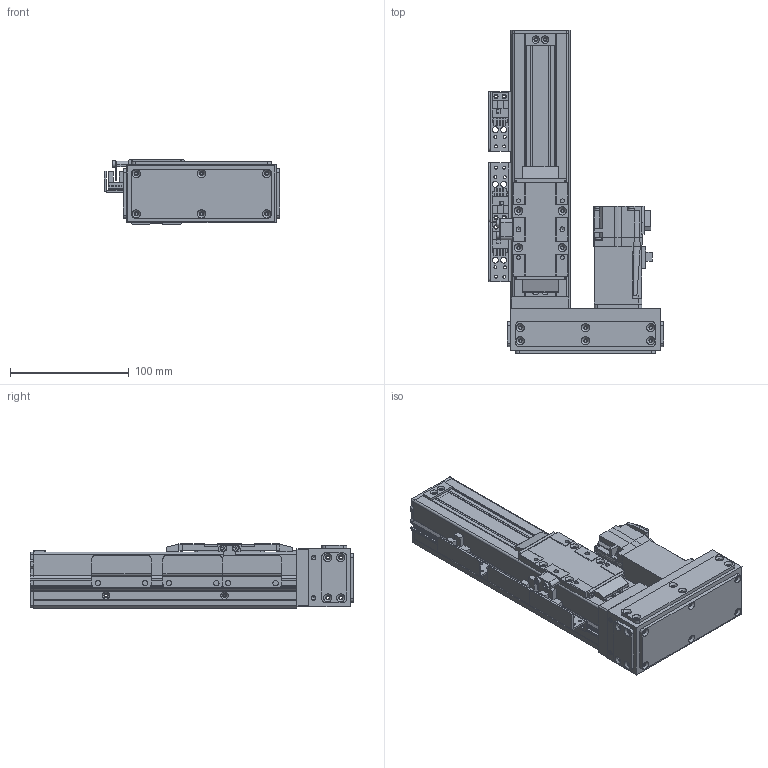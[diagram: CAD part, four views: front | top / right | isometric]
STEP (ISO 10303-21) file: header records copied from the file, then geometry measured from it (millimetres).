
FILE_DESCRIPTION(/* description */ (''),/* implementation_level */ '2;1');
FILE_NAME(/* name */ '\\192.168.0.160\disk1\HAN SHIN Master\B-설계부문\C-표준\B-2024년\BC02-표준도면\+로봇 개선표준도면\홈페이지 표준 도면\표준 승인도 폴더 - 재작업\3D\HC Type\HC50 - 재작업\R-Type\HC50-R10-N-0100-L10.stp',/* time_stamp */ '2024-11-29T11:31:58+09:00',/* author */ ('user'),/* organization */ (''),/* preprocessor_version */ 'ST-DEVELOPER v18.1',/* originating_system */ 'Autodesk Inventor 2022',/* authorisation */ '');
FILE_SCHEMA (('AUTOMOTIVE_DESIGN { 1 0 10303 214 3 1 1 }'));
Length unit declared in the file: millimetre
Products named in the file (27): HC50-R10-N-0200-L10; HC50 BASE-R1; HC50 REAR BLOCK; HR45 FRONT BLOCK; 45- BEARING COVER; HC45 UPCOVER; HC75,90 SHEET PLATE; HC45, HC65 STOPPER; MAGNET(∅10X3); HC50 REAR COVER-R3; ESF1210 NUT; HC45 TABLE; HC75 TABLE COVER; HC45 TABLE SIDE COVER; hg-kr13_; HR45 ACRYL COVER(측면); HR45 MOTOR PLATE 100W; HR45 ACRYL COVER(정면); HR45 LR BELT COVER; HR45 ACRYL COVER(상하면); HC50 L MOTOR PLATE_MIR; SENSOR DOG BRK; HC50 SENSOR DOG; ISO 4762 - M3 x 16; HC50SIDECOVER000; SENSOR BRK(EE-SX674A); EE_SX674A
Assembly tree (38 placements, depth 2):
  HC50-R10-N-0200-L10
    HC50 BASE-R1
    HC50 REAR BLOCK
    HR45 FRONT BLOCK
    45- BEARING COVER
    HC45 UPCOVER
    HC75,90 SHEET PLATE  x2
    HC45, HC65 STOPPER  x2
    MAGNET(∅10X3)  x3
    HC50 REAR COVER-R3
    ESF1210 NUT
    HC50SIDECOVER000  x2
    HC45 TABLE SIDE COVER  x2
    HC45 TABLE
    HC75 TABLE COVER
    hg-kr13_
    HR45 ACRYL COVER(측면)
    HR45 MOTOR PLATE 100W
    HR45 ACRYL COVER(정면)
    HR45 ACRYL COVER(상하면)  x2
    HR45 LR BELT COVER
    HC50 L MOTOR PLATE_MIR
    SENSOR BRK(EE-SX674A)  x3
    EE_SX674A  x3
    SENSOR DOG BRK
    HC50 SENSOR DOG
    ISO 4762 - M3 x 16  x2
Bounding box: 148 x 273 x 54 mm (x, y, z)
Volume: 475862.3 mm3; surface area: 290264.8 mm2
Topology: 40 solids, 40 shells, 1563 faces, 4171 edges, 2738 vertices
Faces by surface type: plane 866, cylinder 598, cone 86, bspline 9, torus 4
Full cylindrical faces by diameter (mm): 2.013 x4, 2.459 x95, 3 x2, 3.242 x16, 3.4 x32, 3.5 x42, 4 x12, 4.5 x12, 5 x14, 5.5 x2, 5.6 x2, 5.9 x2, 6 x21, 6.5 x2, 8 x1, 9 x2, 10 x4, 10.5 x1, 12 x1, 15 x3, 17 x1, 18 x1, 21 x2, 22 x4, 24 x1, 24.5 x1, 26 x1, 30 x2
Entity records: 40528 total; most frequent: CARTESIAN_POINT 7770, DIRECTION 6667, ORIENTED_EDGE 6400, EDGE_CURVE 3200, AXIS2_PLACEMENT_3D 2266, LINE 2135, VECTOR 2135, VERTEX_POINT 2124
